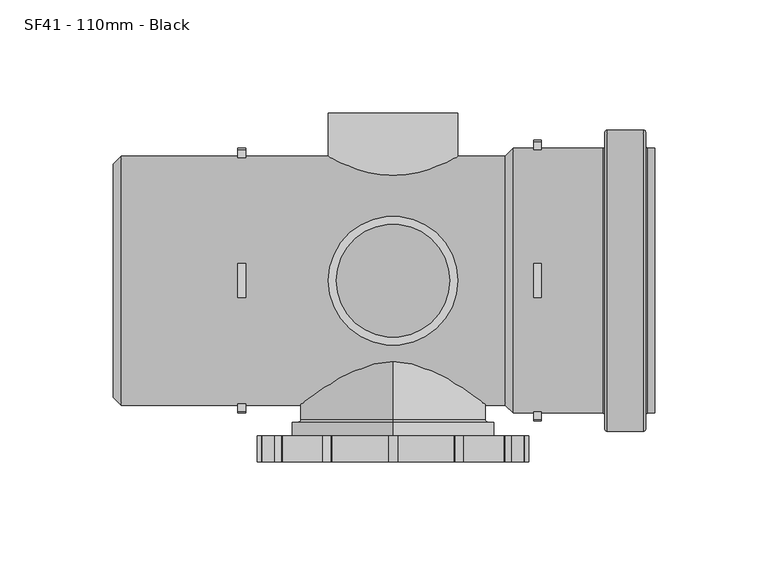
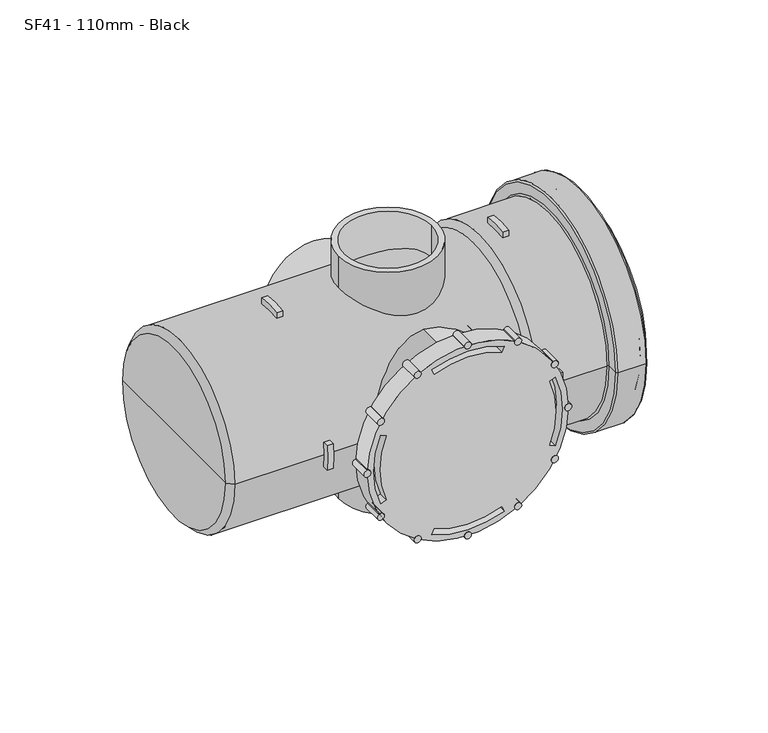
"""IFC4 building model written with IfcOpenShell, lengths in millimetres: pipe fitting geometry, MarleyPlumbingAndDrainage_PipeFitting_AccessPipe_SF41 : SF41 - 110mm - Black."""

from ifc_helpers import new_model, si_unit, point, frame, frame_2d, origin, origin_2d, place, context, project, spatial, polyline, circle_curve, ellipse_curve, trimmed, segment, composite_curve, outline, extrude, source, transform, mapped, element, save
from ifc_brep_helpers import plane_surface, cylinder_surface, revolved_surface, advanced_brep


def sf41_110mm_black_394e0064(model_context):
    return source(origin(), model_context, "Body", "SolidModel", [
        extrude(outline(composite_curve([segment(trimmed(circle_curve(frame_2d((29.0, -458.565843)), 2.0), [point((30.7320508, -459.565843))], [point((27.2679492, -457.565843))], False, "CARTESIAN"), True, "CONTINUOUS"), segment(trimmed(circle_curve(frame_2d((29.0, -458.565843)), 2.0), [point((27.2679492, -457.565843))], [point((30.7320508, -459.565843))], False, "CARTESIAN"), True, "CONTINUOUS")], self_intersect=False)), frame((0.0, -80.0, 0.0), z_axis=(0.0, 1.0, 0.0), x_axis=(0.0, 0.0, 1.0)), (0.0, 0.0, 1.0), 11.5),
        extrude(outline(composite_curve([segment(trimmed(circle_curve(frame_2d((0.0, -450.7953164)), 2.0), [point((2.0, -450.7953164))], [point((-2.0, -450.7953164))], False, "CARTESIAN"), True, "CONTINUOUS"), segment(trimmed(circle_curve(frame_2d((0.0, -450.7953164)), 2.0), [point((-2.0, -450.7953164))], [point((2.0, -450.7953164))], False, "CARTESIAN"), True, "CONTINUOUS")], self_intersect=False)), frame((0.0, -80.0, 0.0), z_axis=(0.0, 1.0, 0.0), x_axis=(0.0, 0.0, 1.0)), (0.0, 0.0, 1.0), 11.5),
        extrude(outline(composite_curve([segment(trimmed(circle_curve(frame_2d((-29.0, -458.565843)), 2.0), [point((-27.2679492, -457.565843))], [point((-30.7320508, -459.565843))], False, "CARTESIAN"), True, "CONTINUOUS"), segment(trimmed(circle_curve(frame_2d((-29.0, -458.565843)), 2.0), [point((-30.7320508, -459.565843))], [point((-27.2679492, -457.565843))], False, "CARTESIAN"), True, "CONTINUOUS")], self_intersect=False)), frame((0.0, -80.0, 0.0), z_axis=(0.0, 1.0, 0.0), x_axis=(0.0, 0.0, 1.0)), (0.0, 0.0, 1.0), 11.5),
        extrude(outline(composite_curve([segment(trimmed(circle_curve(frame_2d((-50.2294734, -479.7953164)), 2.0), [point((-49.2294734, -478.0632656))], [point((-51.2294734, -481.5273672))], False, "CARTESIAN"), True, "CONTINUOUS"), segment(trimmed(circle_curve(frame_2d((-50.2294734, -479.7953164)), 2.0), [point((-51.2294734, -481.5273672))], [point((-49.2294734, -478.0632656))], False, "CARTESIAN"), True, "CONTINUOUS")], self_intersect=False)), frame((0.0, -80.0, 0.0), z_axis=(0.0, 1.0, 0.0), x_axis=(0.0, 0.0, 1.0)), (0.0, 0.0, 1.0), 11.5),
        extrude(outline(composite_curve([segment(trimmed(circle_curve(frame_2d((-58.0, -508.7953164)), 2.0), [point((-58.0, -506.7953164))], [point((-58.0, -510.7953164))], False, "CARTESIAN"), True, "CONTINUOUS"), segment(trimmed(circle_curve(frame_2d((-58.0, -508.7953164)), 2.0), [point((-58.0, -510.7953164))], [point((-58.0, -506.7953164))], False, "CARTESIAN"), True, "CONTINUOUS")], self_intersect=False)), frame((0.0, -80.0, 0.0), z_axis=(0.0, 1.0, 0.0), x_axis=(0.0, 0.0, 1.0)), (0.0, 0.0, 1.0), 11.5),
        extrude(outline(composite_curve([segment(trimmed(circle_curve(frame_2d((-50.2294734, -537.7953164)), 2.0), [point((-51.2294734, -536.0632656))], [point((-49.2294734, -539.5273672))], False, "CARTESIAN"), True, "CONTINUOUS"), segment(trimmed(circle_curve(frame_2d((-50.2294734, -537.7953164)), 2.0), [point((-49.2294734, -539.5273672))], [point((-51.2294734, -536.0632656))], False, "CARTESIAN"), True, "CONTINUOUS")], self_intersect=False)), frame((0.0, -80.0, 0.0), z_axis=(0.0, 1.0, 0.0), x_axis=(0.0, 0.0, 1.0)), (0.0, 0.0, 1.0), 11.5),
        extrude(outline(composite_curve([segment(trimmed(circle_curve(frame_2d((-29.0, -559.0247898)), 2.0), [point((-30.7320508, -558.0247898))], [point((-27.2679492, -560.0247898))], False, "CARTESIAN"), True, "CONTINUOUS"), segment(trimmed(circle_curve(frame_2d((-29.0, -559.0247898)), 2.0), [point((-27.2679492, -560.0247898))], [point((-30.7320508, -558.0247898))], False, "CARTESIAN"), True, "CONTINUOUS")], self_intersect=False)), frame((0.0, -80.0, 0.0), z_axis=(0.0, 1.0, 0.0), x_axis=(0.0, 0.0, 1.0)), (0.0, 0.0, 1.0), 11.5),
        extrude(outline(composite_curve([segment(trimmed(circle_curve(frame_2d((0.0, -566.7953164)), 2.0), [point((-2.0, -566.7953164))], [point((2.0, -566.7953164))], False, "CARTESIAN"), True, "CONTINUOUS"), segment(trimmed(circle_curve(frame_2d((0.0, -566.7953164)), 2.0), [point((2.0, -566.7953164))], [point((-2.0, -566.7953164))], False, "CARTESIAN"), True, "CONTINUOUS")], self_intersect=False)), frame((0.0, -80.0, 0.0), z_axis=(0.0, 1.0, 0.0), x_axis=(0.0, 0.0, 1.0)), (0.0, 0.0, 1.0), 11.5),
        extrude(outline(composite_curve([segment(trimmed(circle_curve(frame_2d((29.0, -559.0247898)), 2.0), [point((27.2679492, -560.0247898))], [point((30.7320508, -558.0247898))], False, "CARTESIAN"), True, "CONTINUOUS"), segment(trimmed(circle_curve(frame_2d((29.0, -559.0247898)), 2.0), [point((30.7320508, -558.0247898))], [point((27.2679492, -560.0247898))], False, "CARTESIAN"), True, "CONTINUOUS")], self_intersect=False)), frame((0.0, -80.0, 0.0), z_axis=(0.0, 1.0, 0.0), x_axis=(0.0, 0.0, 1.0)), (0.0, 0.0, 1.0), 11.5),
        extrude(outline(composite_curve([segment(trimmed(circle_curve(frame_2d((50.2294734, -537.7953164)), 2.0), [point((49.2294734, -539.5273672))], [point((51.2294734, -536.0632656))], False, "CARTESIAN"), True, "CONTINUOUS"), segment(trimmed(circle_curve(frame_2d((50.2294734, -537.7953164)), 2.0), [point((51.2294734, -536.0632656))], [point((49.2294734, -539.5273672))], False, "CARTESIAN"), True, "CONTINUOUS")], self_intersect=False)), frame((0.0, -80.0, 0.0), z_axis=(0.0, 1.0, 0.0), x_axis=(0.0, 0.0, 1.0)), (0.0, 0.0, 1.0), 11.5),
        extrude(outline(composite_curve([segment(trimmed(circle_curve(frame_2d((50.2294734, -479.7953164)), 2.0), [point((51.2294734, -481.5273672))], [point((49.2294734, -478.0632656))], False, "CARTESIAN"), True, "CONTINUOUS"), segment(trimmed(circle_curve(frame_2d((50.2294734, -479.7953164)), 2.0), [point((49.2294734, -478.0632656))], [point((51.2294734, -481.5273672))], False, "CARTESIAN"), True, "CONTINUOUS")], self_intersect=False)), frame((0.0, -80.0, 0.0), z_axis=(0.0, 1.0, 0.0), x_axis=(0.0, 0.0, 1.0)), (0.0, 0.0, 1.0), 11.5),
        extrude(outline(composite_curve([segment(trimmed(circle_curve(frame_2d((58.0, -508.7953164)), 2.0), [point((58.0, -510.7953164))], [point((58.0, -506.7953164))], False, "CARTESIAN"), True, "CONTINUOUS"), segment(trimmed(circle_curve(frame_2d((58.0, -508.7953164)), 2.0), [point((58.0, -506.7953164))], [point((58.0, -510.7953164))], False, "CARTESIAN"), True, "CONTINUOUS")], self_intersect=False)), frame((0.0, -80.0, 0.0), z_axis=(0.0, 1.0, 0.0), x_axis=(0.0, 0.0, 1.0)), (0.0, 0.0, 1.0), 11.5),
        advanced_brep(
        [(-566.7953164, -80.0, 0.0), (-450.7953164, -80.0, 0.0), (-529.6515635, -80.0, -50.3514345), (-528.3121714, -80.0, -47.1178562), (-489.2784613, -80.0, -47.1178562), (-487.9390693, -80.0, -50.3514345), (-458.4438819, -80.0, -20.8562471), (-461.6774602, -80.0, -19.5168551), (-461.6774602, -80.0, 19.5168551), (-458.4438819, -80.0, 20.8562471), (-555.9131726, -80.0, 19.5168551), (-555.9131726, -80.0, -19.5168551), (-559.1467509, -80.0, -20.8562471), (-559.1467509, -80.0, 20.8562471), (-528.3121714, -80.0, 47.1178562), (-529.6515635, -80.0, 50.3514345), (-487.9390693, -80.0, 50.3514345), (-489.2784613, -80.0, 47.1178562), (-566.7953164, -68.5, 0.0), (-450.7953164, -68.5, 0.0), (-508.7953164, -68.5, -44.5), (-508.7953164, -68.5, 44.5), (-528.3121714, -74.0, -47.1178562), (-529.6515635, -74.0, -50.3514345), (-487.9390693, -74.0, -50.3514345), (-489.2784613, -74.0, -47.1178562), (-461.6774602, -74.0, -19.5168551), (-458.4438819, -74.0, -20.8562471), (-458.4438819, -74.0, 20.8562471), (-461.6774602, -74.0, 19.5168551), (-555.9131726, -74.0, -19.5168551), (-555.9131726, -74.0, 19.5168551), (-559.1467509, -74.0, 20.8562471), (-559.1467509, -74.0, -20.8562471), (-529.6515635, -74.0, 50.3514345), (-528.3121714, -74.0, 47.1178562), (-489.2784613, -74.0, 47.1178562), (-487.9390693, -74.0, 50.3514345), (-508.7953164, -62.5, -44.5), (-508.7953164, -62.5, 44.5), (-508.7953164, -62.5, -42.0), (-508.7953164, -62.5, 42.0), (-508.7953164, -61.5, -41.0), (-508.7953164, -61.5, 41.0), (-508.7953164, 0.0, -41.0), (-508.7953164, 0.0, 41.0), (-508.7953164, 0.0, 0.0)],
        [
            (0, 1, circle_curve(frame((-508.7953164, -80.0, 0.0), z_axis=(0.0, -1.0, 0.0), x_axis=(1.0000000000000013, 0.0, 0.0)), 58.0)),
            (1, 0, circle_curve(frame((-508.7953164, -80.0, 0.0), z_axis=(0.0, -1.0, 0.0), x_axis=(1.0000000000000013, 0.0, 0.0)), 58.0)),
            (2, 3),
            (3, 4, circle_curve(frame((-508.7953164, -80.0, 0.0), z_axis=(0.0, -1.0, 0.0), x_axis=(1.0000000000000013, 0.0, 0.0)), 51.0)),
            (4, 5),
            (5, 2, circle_curve(frame((-508.7953164, -80.0, 0.0), z_axis=(0.0, 1.0, 0.0), x_axis=(1.0000000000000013, 0.0, 0.0)), 54.5)),
            (6, 7),
            (7, 8, circle_curve(frame((-508.7953164, -80.0, 0.0), z_axis=(0.0, -1.0, 0.0), x_axis=(1.0000000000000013, 0.0, 0.0)), 51.0)),
            (8, 9),
            (9, 6, circle_curve(frame((-508.7953164, -80.0, 0.0), z_axis=(0.0, 1.0, 0.0), x_axis=(1.0000000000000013, 0.0, 0.0)), 54.5)),
            (10, 11, circle_curve(frame((-508.7953164, -80.0, 0.0), z_axis=(0.0, -1.0, 0.0), x_axis=(1.0000000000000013, 0.0, 0.0)), 51.0)),
            (11, 12),
            (12, 13, circle_curve(frame((-508.7953164, -80.0, 0.0), z_axis=(0.0, 1.0, 0.0), x_axis=(1.0000000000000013, 0.0, 0.0)), 54.5)),
            (13, 10),
            (14, 15),
            (15, 16, circle_curve(frame((-508.7953164, -80.0, 0.0), z_axis=(0.0, 1.0, 0.0), x_axis=(1.0000000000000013, 0.0, 0.0)), 54.5)),
            (16, 17),
            (17, 14, circle_curve(frame((-508.7953164, -80.0, 0.0), z_axis=(0.0, -1.0, 0.0), x_axis=(1.0000000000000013, 0.0, 0.0)), 51.0)),
            (18, 19, circle_curve(frame((-508.7953164, -68.5, 0.0), z_axis=(0.0, 1.0, 0.0), x_axis=(1.0000000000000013, 0.0, 0.0)), 58.0)),
            (19, 18, circle_curve(frame((-508.7953164, -68.5, 0.0), z_axis=(0.0, 1.0, 0.0), x_axis=(1.0000000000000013, 0.0, 0.0)), 58.0)),
            (20, 21, circle_curve(frame((-508.7953164, -68.5, 0.0), z_axis=(0.0, -1.0, 0.0), x_axis=(0.0, 0.0, 1.0000000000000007)), 44.5)),
            (21, 20, circle_curve(frame((-508.7953164, -68.5, 0.0), z_axis=(0.0, -1.0, 0.0), x_axis=(0.0, 0.0, 1.0000000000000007)), 44.5)),
            (0, 18),
            (19, 1),
            (22, 23),
            (23, 24, circle_curve(frame((-508.7953164, -74.0, 0.0), z_axis=(0.0, -1.0, 0.0), x_axis=(1.0000000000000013, 0.0, 0.0)), 54.5)),
            (24, 25),
            (25, 22, circle_curve(frame((-508.7953164, -74.0, 0.0), z_axis=(0.0, 1.0, 0.0), x_axis=(1.0000000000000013, 0.0, 0.0)), 51.0)),
            (26, 27),
            (27, 28, circle_curve(frame((-508.7953164, -74.0, 0.0), z_axis=(0.0, -1.0, 0.0), x_axis=(1.0000000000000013, 0.0, 0.0)), 54.5)),
            (28, 29),
            (29, 26, circle_curve(frame((-508.7953164, -74.0, 0.0), z_axis=(0.0, 1.0, 0.0), x_axis=(1.0000000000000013, 0.0, 0.0)), 51.0)),
            (30, 31, circle_curve(frame((-508.7953164, -74.0, 0.0), z_axis=(0.0, 1.0, 0.0), x_axis=(1.0000000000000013, 0.0, 0.0)), 51.0)),
            (31, 32),
            (32, 33, circle_curve(frame((-508.7953164, -74.0, 0.0), z_axis=(0.0, -1.0, 0.0), x_axis=(1.0000000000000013, 0.0, 0.0)), 54.5)),
            (33, 30),
            (34, 35),
            (35, 36, circle_curve(frame((-508.7953164, -74.0, 0.0), z_axis=(0.0, 1.0, 0.0), x_axis=(1.0000000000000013, 0.0, 0.0)), 51.0)),
            (36, 37),
            (37, 34, circle_curve(frame((-508.7953164, -74.0, 0.0), z_axis=(0.0, -1.0, 0.0), x_axis=(1.0000000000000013, 0.0, 0.0)), 54.5)),
            (22, 3),
            (2, 23),
            (5, 24),
            (4, 25),
            (26, 7),
            (6, 27),
            (9, 28),
            (8, 29),
            (30, 11),
            (10, 31),
            (13, 32),
            (12, 33),
            (34, 15),
            (14, 35),
            (17, 36),
            (16, 37),
            (38, 39, circle_curve(frame((-508.7953164, -62.5, 0.0), z_axis=(0.0, -1.0, 0.0), x_axis=(0.0, 0.0, 1.0000000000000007)), 44.5)),
            (39, 21),
            (20, 38),
            (39, 38, circle_curve(frame((-508.7953164, -62.5, 0.0), z_axis=(0.0, -1.0, 0.0), x_axis=(0.0, 0.0, 1.0000000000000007)), 44.5)),
            (38, 40),
            (40, 41, circle_curve(frame((-508.7953164, -62.5, 0.0), z_axis=(0.0, -1.0, 0.0), x_axis=(0.0, 0.0, 1.0000000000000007)), 42.0)),
            (41, 39),
            (41, 40, circle_curve(frame((-508.7953164, -62.5, 0.0), z_axis=(0.0, -1.0, 0.0), x_axis=(0.0, 0.0, 1.0000000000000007)), 42.0)),
            (40, 42, circle_curve(frame((-508.7953164, -61.5, -42.0), z_axis=(-1.0000000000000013, 0.0, 0.0), x_axis=(0.0, -1.0000000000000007, 0.0)), 1.0)),
            (42, 43, circle_curve(frame((-508.7953164, -61.5, 0.0), z_axis=(0.0, -1.0, 0.0), x_axis=(0.0, 0.0, 1.0000000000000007)), 41.0)),
            (43, 41, circle_curve(frame((-508.7953164, -61.5, 42.0), z_axis=(-1.0000000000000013, 0.0, 0.0), x_axis=(0.0, -1.0000000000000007, 0.0)), 1.0)),
            (43, 42, circle_curve(frame((-508.7953164, -61.5, 0.0), z_axis=(0.0, -1.0, 0.0), x_axis=(0.0, 0.0, 1.0000000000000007)), 41.0)),
            (42, 44),
            (44, 45, circle_curve(frame((-508.7953164, 0.0, 0.0), z_axis=(0.0, -1.0, 0.0), x_axis=(0.0, 0.0, 1.0000000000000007)), 41.0)),
            (45, 43),
            (45, 44, circle_curve(frame((-508.7953164, 0.0, 0.0), z_axis=(0.0, -1.0, 0.0), x_axis=(0.0, 0.0, 1.0000000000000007)), 41.0)),
            (44, 46),
            (46, 45),
        ],
        [
            plane_surface(frame((-450.7953164, -80.0, 0.0), z_axis=(0.0, -1.0, 0.0), x_axis=(0.0, 0.0, 1.0))),
            plane_surface(frame((-450.7953164, -68.5, 0.0), z_axis=(0.0, 1.0, 0.0), x_axis=(0.0, 0.0, -1.0))),
            cylinder_surface(frame((-508.7953164, -68.5, 0.0), z_axis=(0.0, -1.0000000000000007, 0.0), x_axis=(1.0000000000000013, 0.0, 0.0)), 58.0),
            plane_surface(frame((-529.6515635, -74.0, -50.3514345), z_axis=(0.0, -1.0, 0.0), x_axis=(0.38268343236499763, 0.0, 0.9238795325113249))),
            plane_surface(frame((-528.3121714, -80.0, -47.1178562), z_axis=(0.9238795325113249, 0.0, -0.38268343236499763), x_axis=(0.0, 1.0, 0.0))),
            revolved_surface(polyline([(-454.29531639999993, -80.00000000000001, 0.0), (-454.29531639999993, -74.0, 0.0)]), (-508.7953164, -74.0, 0.0), (0.0, -1.0000000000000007, 0.0)),
            plane_surface(frame((-487.9390693, -80.0, -50.3514345), z_axis=(-0.9238795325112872, 0.0, -0.38268343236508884), x_axis=(0.0, 1.0, 0.0))),
            cylinder_surface(frame((-508.7953164, -74.0, 0.0), z_axis=(0.0, 1.0000000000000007, 0.0), x_axis=(1.0000000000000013, 0.0, 0.0)), 51.0),
            plane_surface(frame((-461.6774602, -80.0, -19.5168551), z_axis=(0.3826834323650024, 0.0, 0.9238795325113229), x_axis=(0.0, 1.0, 0.0))),
            revolved_surface(polyline([(-454.29531639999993, -80.00000000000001, 0.0), (-454.29531639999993, -74.0, 0.0)]), (-508.7953164, -68.5, 0.0), (0.0, -1.0000000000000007, 0.0)),
            plane_surface(frame((-458.4438819, -80.0, 20.8562471), z_axis=(0.38268343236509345, 0.0, -0.9238795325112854), x_axis=(0.0, 1.0, 0.0))),
            cylinder_surface(frame((-508.7953164, -68.5, 0.0), z_axis=(0.0, 1.0000000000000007, 0.0), x_axis=(1.0000000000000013, 0.0, 0.0)), 51.0),
            plane_surface(frame((-555.9131726, -80.0, 19.5168551), z_axis=(-0.38268343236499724, 0.0, -0.923879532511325), x_axis=(0.0, 1.0, 0.0))),
            plane_surface(frame((-559.1467509, -80.0, -20.8562471), z_axis=(-0.3826834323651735, 0.0, 0.9238795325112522), x_axis=(0.0, 1.0, 0.0))),
            plane_surface(frame((-529.6515635, -80.0, 50.3514345), z_axis=(0.923879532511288, 0.0, 0.38268343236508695), x_axis=(0.0, 1.0, 0.0))),
            plane_surface(frame((-489.2784613, -80.0, 47.1178562), z_axis=(-0.9238795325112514, 0.0, 0.3826834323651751), x_axis=(0.0, 1.0, 0.0))),
            cylinder_surface(frame((-508.7953164, 1158.344146, 0.0), z_axis=(0.0, 1.0000000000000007, 0.0), x_axis=(0.0, 0.0, 1.0000000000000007)), 44.5),
            plane_surface(frame((-508.7953164, -62.5, 0.0), z_axis=(0.0, 1.0, 0.0), x_axis=(0.0, 0.0, 1.0))),
            revolved_surface(trimmed(ellipse_curve(frame((-508.7953164, -61.5, 42.0), z_axis=(1.0000000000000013, 0.0, 0.0), x_axis=(0.0, -1.0000000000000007, 0.0)), 1.0, 1.0), [point((-508.7953164, -62.5, 42.0))], [point((-508.7953164, -61.5, 41.0))], True, "CARTESIAN"), (-508.7953164, 1158.344146, 0.0), (0.0, 1.0000000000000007, 0.0)),
            cylinder_surface(frame((-508.7953164, 1158.344146, 0.0), z_axis=(0.0, 1.0000000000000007, 0.0), x_axis=(0.0, 0.0, 1.0000000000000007)), 41.0),
            plane_surface(frame((-508.7953164, 0.0, 0.0), z_axis=(0.0, 1.0, 0.0), x_axis=(0.0, 0.0, 1.0))),
        ],
        [
            (0, [[1, 2], [3, 4, 5, 6], [7, 8, 9, 10], [11, 12, 13, 14], [15, 16, 17, 18]]),
            (1, [[19, 20], [21, 22]]),
            (2, [[-1, 23, -20, 24]]),
            (2, [[-2, -24, -19, -23]]),
            (3, [[25, 26, 27, 28]]),
            (3, [[29, 30, 31, 32]]),
            (3, [[33, 34, 35, 36]]),
            (3, [[37, 38, 39, 40]]),
            (4, [[-25, 41, -3, 42]]),
            (5, [[-26, -42, -6, 43]]),
            (6, [[-27, -43, -5, 44]]),
            (7, [[-28, -44, -4, -41]]),
            (8, [[-29, 45, -7, 46]]),
            (9, [[-30, -46, -10, 47]]),
            (10, [[-31, -47, -9, 48]]),
            (11, [[-32, -48, -8, -45]]),
            (11, [[-33, 49, -11, 50]]),
            (12, [[-34, -50, -14, 51]]),
            (9, [[-35, -51, -13, 52]]),
            (13, [[-36, -52, -12, -49]]),
            (14, [[-37, 53, -15, 54]]),
            (11, [[-38, -54, -18, 55]]),
            (15, [[-39, -55, -17, 56]]),
            (9, [[-40, -56, -16, -53]]),
            (16, [[57, 58, -21, 59]]),
            (16, [[-58, 60, -59, -22]]),
            (17, [[-57, 61, 62, 63]]),
            (17, [[-60, -63, 64, -61]]),
            (18, [[-62, 65, 66, 67]]),
            (18, [[-64, -67, 68, -65]]),
            (19, [[-66, 69, 70, 71]]),
            (19, [[-68, -71, 72, -69]]),
            (20, [[-70, 73, 74]]),
            (20, [[-72, -74, -73]]),
        ],
    ),
        extrude(outline(composite_curve([segment(trimmed(circle_curve(frame_2d((0.0, -508.7953164)), 28.5), [point((0.0, -537.2953164))], [point((0.0, -480.2953164))], False, "CARTESIAN"), True, "CONTINUOUS"), segment(trimmed(circle_curve(frame_2d((0.0, -508.7953164)), 28.5), [point((0.0, -480.2953164))], [point((0.0, -537.2953164))], False, "CARTESIAN"), True, "CONTINUOUS")], self_intersect=False), holes=[composite_curve([segment(trimmed(circle_curve(frame_2d((0.0, -508.7953164)), 25.0), [point((0.0, -533.7953164))], [point((0.0, -483.7953164))], True, "CARTESIAN"), True, "CONTINUOUS"), segment(trimmed(circle_curve(frame_2d((0.0, -508.7953164)), 25.0), [point((0.0, -483.7953164))], [point((0.0, -533.7953164))], True, "CARTESIAN"), True, "CONTINUOUS")], self_intersect=False)]), frame((0.0, 0.0, 0.0), z_axis=(0.0, 1.0, 0.0), x_axis=(0.0, 0.0, 1.0)), (0.0, 0.0, 1.0), 74.0),
        extrude(outline(composite_curve([segment(trimmed(circle_curve(frame_2d((-508.7953164, 0.0)), 28.5), [point((-537.2953164, 0.0))], [point((-480.2953164, 0.0))], False, "CARTESIAN"), True, "CONTINUOUS"), segment(trimmed(circle_curve(frame_2d((-508.7953164, 0.0)), 28.5), [point((-480.2953164, 0.0))], [point((-537.2953164, 0.0))], False, "CARTESIAN"), True, "CONTINUOUS")], self_intersect=False), holes=[composite_curve([segment(trimmed(circle_curve(frame_2d((-508.7953164, 0.0)), 25.0), [point((-533.7953164, 0.0))], [point((-483.7953164, 0.0))], True, "CARTESIAN"), True, "CONTINUOUS"), segment(trimmed(circle_curve(frame_2d((-508.7953164, 0.0)), 25.0), [point((-483.7953164, 0.0))], [point((-533.7953164, 0.0))], True, "CARTESIAN"), True, "CONTINUOUS")], self_intersect=False)]), frame((0.0, 0.0, -74.0), z_axis=(0.0, 0.0, 1.0), x_axis=(1.0, 0.0, 0.0)), (0.0, 0.0, 1.0), 148.0),
        extrude(outline(composite_curve([segment(trimmed(circle_curve(origin_2d(), 55.0), [point((-7.5, -54.4862368))], [point((7.5, -54.4862368))], True, "CARTESIAN"), True, "CONTINUOUS"), segment(polyline([(7.5, -54.4862368), (7.5, -58.0172388)]), True, "CONTINUOUS"), segment(trimmed(circle_curve(origin_2d(), 58.5), [point((7.5, -58.0172388))], [point((-7.5, -58.0172388))], False, "CARTESIAN"), True, "CONTINUOUS"), segment(polyline([(-7.5, -58.0172388), (-7.5, -54.4862368)]), True, "CONTINUOUS")], self_intersect=False)), frame((-577.2953164, 0.0, 0.0), z_axis=(1.0, 0.0, 0.0), x_axis=(0.0, 1.0, 0.0)), (0.0, 0.0, 1.0), 3.5),
        extrude(outline(composite_curve([segment(polyline([(54.4862368, 7.5), (58.0172388, 7.5)]), True, "CONTINUOUS"), segment(trimmed(circle_curve(origin_2d(), 58.5), [point((58.0172388, 7.5))], [point((58.0172388, -7.5))], False, "CARTESIAN"), True, "CONTINUOUS"), segment(polyline([(58.0172388, -7.5), (54.4862368, -7.5)]), True, "CONTINUOUS"), segment(trimmed(circle_curve(origin_2d(), 55.0), [point((54.4862368, -7.5))], [point((54.4862368, 7.5))], True, "CARTESIAN"), True, "CONTINUOUS")], self_intersect=False)), frame((-577.2953164, 0.0, 0.0), z_axis=(1.0, 0.0, 0.0), x_axis=(0.0, 1.0, 0.0)), (0.0, 0.0, 1.0), 3.5),
        extrude(outline(composite_curve([segment(polyline([(-58.0172388, 7.5), (-54.4862368, 7.5)]), True, "CONTINUOUS"), segment(trimmed(circle_curve(origin_2d(), 55.0), [point((-54.4862368, 7.5))], [point((-54.4862368, -7.5))], True, "CARTESIAN"), True, "CONTINUOUS"), segment(polyline([(-54.4862368, -7.5), (-58.0172388, -7.5)]), True, "CONTINUOUS"), segment(trimmed(circle_curve(origin_2d(), 58.5), [point((-58.0172388, -7.5))], [point((-58.0172388, 7.5))], False, "CARTESIAN"), True, "CONTINUOUS")], self_intersect=False)), frame((-577.2953164, 0.0, 0.0), z_axis=(1.0, 0.0, 0.0), x_axis=(0.0, 1.0, 0.0)), (0.0, 0.0, 1.0), 3.5),
        extrude(outline(composite_curve([segment(polyline([(-7.5, 54.4862368), (-7.5, 58.0172388)]), True, "CONTINUOUS"), segment(trimmed(circle_curve(origin_2d(), 58.5), [point((-7.5, 58.0172388))], [point((7.5, 58.0172388))], False, "CARTESIAN"), True, "CONTINUOUS"), segment(polyline([(7.5, 58.0172388), (7.5, 54.4862368)]), True, "CONTINUOUS"), segment(trimmed(circle_curve(origin_2d(), 55.0), [point((7.5, 54.4862368))], [point((-7.5, 54.4862368))], True, "CARTESIAN"), True, "CONTINUOUS")], self_intersect=False)), frame((-577.2953164, 0.0, 0.0), z_axis=(1.0, 0.0, 0.0), x_axis=(0.0, 1.0, 0.0)), (0.0, 0.0, 1.0), 3.5),
        extrude(outline(composite_curve([segment(trimmed(circle_curve(origin_2d(), 62.0), [point((-7.5, 61.5446992))], [point((7.5, 61.5446992))], False, "CARTESIAN"), True, "CONTINUOUS"), segment(polyline([(7.5, 61.5446992), (7.5, 58.0172388)]), True, "CONTINUOUS"), segment(trimmed(circle_curve(origin_2d(), 58.5), [point((7.5, 58.0172388))], [point((-7.5, 58.0172388))], True, "CARTESIAN"), True, "CONTINUOUS"), segment(polyline([(-7.5, 58.0172388), (-7.5, 61.5446992)]), True, "CONTINUOUS")], self_intersect=False)), frame((-446.7953164, 0.0, 0.0), z_axis=(1.0, 0.0, 0.0), x_axis=(0.0, 1.0, 0.0)), (0.0, 0.0, 1.0), 3.5),
        extrude(outline(composite_curve([segment(polyline([(58.0172388, 7.5), (61.5446992, 7.5)]), True, "CONTINUOUS"), segment(trimmed(circle_curve(origin_2d(), 62.0), [point((61.5446992, 7.5))], [point((61.5446992, -7.5))], False, "CARTESIAN"), True, "CONTINUOUS"), segment(polyline([(61.5446992, -7.5), (58.0172388, -7.5)]), True, "CONTINUOUS"), segment(trimmed(circle_curve(origin_2d(), 58.5), [point((58.0172388, -7.5))], [point((58.0172388, 7.5))], True, "CARTESIAN"), True, "CONTINUOUS")], self_intersect=False)), frame((-446.7953164, 0.0, 0.0), z_axis=(1.0, 0.0, 0.0), x_axis=(0.0, 1.0, 0.0)), (0.0, 0.0, 1.0), 3.5),
        extrude(outline(composite_curve([segment(trimmed(circle_curve(origin_2d(), 62.0), [point((-61.5446992, -7.5))], [point((-61.5446992, 7.5))], False, "CARTESIAN"), True, "CONTINUOUS"), segment(polyline([(-61.5446992, 7.5), (-58.0172388, 7.5)]), True, "CONTINUOUS"), segment(trimmed(circle_curve(origin_2d(), 58.5), [point((-58.0172388, 7.5))], [point((-58.0172388, -7.5))], True, "CARTESIAN"), True, "CONTINUOUS"), segment(polyline([(-58.0172388, -7.5), (-61.5446992, -7.5)]), True, "CONTINUOUS")], self_intersect=False)), frame((-446.7953164, 0.0, 0.0), z_axis=(1.0, 0.0, 0.0), x_axis=(0.0, 1.0, 0.0)), (0.0, 0.0, 1.0), 3.5),
        extrude(outline(composite_curve([segment(polyline([(-7.5, -61.5446992), (-7.5, -58.0172388)]), True, "CONTINUOUS"), segment(trimmed(circle_curve(origin_2d(), 58.5), [point((-7.5, -58.0172388))], [point((7.5, -58.0172388))], True, "CARTESIAN"), True, "CONTINUOUS"), segment(polyline([(7.5, -58.0172388), (7.5, -61.5446992)]), True, "CONTINUOUS"), segment(trimmed(circle_curve(origin_2d(), 62.0), [point((7.5, -61.5446992))], [point((-7.5, -61.5446992))], False, "CARTESIAN"), True, "CONTINUOUS")], self_intersect=False)), frame((-446.7953164, 0.0, 0.0), z_axis=(1.0, 0.0, 0.0), x_axis=(0.0, 1.0, 0.0)), (0.0, 0.0, 1.0), 3.5),
        advanced_brep(
        [(-396.2953164, -58.5, 0.0), (-396.2953164, 58.5, 0.0), (-393.2953164, 58.5, 0.0), (-393.2953164, -58.5, 0.0), (-397.2953164, -65.5, 0.0), (-397.2953164, 65.5, 0.0), (-397.2953164, 59.5, 0.0), (-397.2953164, -59.5, 0.0), (-414.2953164, -66.5, 0.0), (-414.2953164, 66.5, 0.0), (-398.2953164, 66.5, 0.0), (-398.2953164, -66.5, 0.0), (-415.2953164, -59.5, 0.0), (-415.2953164, 59.5, 0.0), (-415.2953164, 65.5, 0.0), (-415.2953164, -65.5, 0.0), (-455.7953164, -58.5, 0.0), (-455.7953164, 58.5, 0.0), (-416.2953164, 58.5, 0.0), (-416.2953164, -58.5, 0.0), (-459.2953164, -55.0, 0.0), (-459.2953164, 55.0, 0.0), (-628.7953164, -55.0, 0.0), (-628.7953164, 55.0, 0.0), (-632.2953164, -51.5, 0.0), (-632.2953164, 51.5, 0.0), (-455.7953164, -55.0, 0.0), (-455.7953164, 55.0, 0.0), (-455.7953164, 0.0, 0.0), (-393.2953164, -55.0, 0.0), (-393.2953164, 55.0, 0.0), (-632.2953164, 0.0, 0.0)],
        [
            (0, 1, circle_curve(frame((-396.2953164, 0.0, 0.0), z_axis=(1.0, 0.0, 0.0), x_axis=(0.0, 1.0, 0.0)), 58.5)),
            (1, 2),
            (2, 3, circle_curve(frame((-393.2953164, 0.0, 0.0), z_axis=(-1.0, 0.0, 0.0), x_axis=(0.0, 1.0, 0.0)), 58.5)),
            (3, 0),
            (1, 0, circle_curve(frame((-396.2953164, 0.0, 0.0), z_axis=(1.0, 0.0, 0.0), x_axis=(0.0, 1.0, 0.0)), 58.5)),
            (3, 2, circle_curve(frame((-393.2953164, 0.0, 0.0), z_axis=(-1.0, 0.0, 0.0), x_axis=(0.0, 1.0, 0.0)), 58.5)),
            (4, 5, circle_curve(frame((-397.2953164, 0.0, 0.0), z_axis=(1.0, 0.0, 0.0), x_axis=(0.0, 1.0, 0.0)), 65.5)),
            (5, 6),
            (6, 7, circle_curve(frame((-397.2953164, 0.0, 0.0), z_axis=(-1.0, 0.0, 0.0), x_axis=(0.0, 1.0, 0.0)), 59.5)),
            (7, 4),
            (5, 4, circle_curve(frame((-397.2953164, 0.0, 0.0), z_axis=(1.0, 0.0, 0.0), x_axis=(0.0, 1.0, 0.0)), 65.5)),
            (7, 6, circle_curve(frame((-397.2953164, 0.0, 0.0), z_axis=(-1.0, 0.0, 0.0), x_axis=(0.0, 1.0, 0.0)), 59.5)),
            (8, 9, circle_curve(frame((-414.2953164, 0.0, 0.0), z_axis=(1.0, 0.0, 0.0), x_axis=(0.0, 1.0, 0.0)), 66.5)),
            (9, 10),
            (10, 11, circle_curve(frame((-398.2953164, 0.0, 0.0), z_axis=(-1.0, 0.0, 0.0), x_axis=(0.0, 1.0, 0.0)), 66.5)),
            (11, 8),
            (9, 8, circle_curve(frame((-414.2953164, 0.0, 0.0), z_axis=(1.0, 0.0, 0.0), x_axis=(0.0, 1.0, 0.0)), 66.5)),
            (11, 10, circle_curve(frame((-398.2953164, 0.0, 0.0), z_axis=(-1.0, 0.0, 0.0), x_axis=(0.0, 1.0, 0.0)), 66.5)),
            (12, 13, circle_curve(frame((-415.2953164, 0.0, 0.0), z_axis=(1.0, 0.0, 0.0), x_axis=(0.0, 1.0, 0.0)), 59.5)),
            (13, 14),
            (14, 15, circle_curve(frame((-415.2953164, 0.0, 0.0), z_axis=(-1.0, 0.0, 0.0), x_axis=(0.0, 1.0, 0.0)), 65.5)),
            (15, 12),
            (13, 12, circle_curve(frame((-415.2953164, 0.0, 0.0), z_axis=(1.0, 0.0, 0.0), x_axis=(0.0, 1.0, 0.0)), 59.5)),
            (15, 14, circle_curve(frame((-415.2953164, 0.0, 0.0), z_axis=(-1.0, 0.0, 0.0), x_axis=(0.0, 1.0, 0.0)), 65.5)),
            (16, 17, circle_curve(frame((-455.7953164, 0.0, 0.0), z_axis=(1.0, 0.0, 0.0), x_axis=(0.0, 1.0, 0.0)), 58.5)),
            (17, 18),
            (18, 19, circle_curve(frame((-416.2953164, 0.0, 0.0), z_axis=(-1.0, 0.0, 0.0), x_axis=(0.0, 1.0, 0.0)), 58.5)),
            (19, 16),
            (17, 16, circle_curve(frame((-455.7953164, 0.0, 0.0), z_axis=(1.0, 0.0, 0.0), x_axis=(0.0, 1.0, 0.0)), 58.5)),
            (19, 18, circle_curve(frame((-416.2953164, 0.0, 0.0), z_axis=(-1.0, 0.0, 0.0), x_axis=(0.0, 1.0, 0.0)), 58.5)),
            (20, 21, circle_curve(frame((-459.2953164, 0.0, 0.0), z_axis=(1.0, 0.0, 0.0), x_axis=(0.0, 1.0, 0.0)), 55.0)),
            (21, 17),
            (16, 20),
            (21, 20, circle_curve(frame((-459.2953164, 0.0, 0.0), z_axis=(1.0, 0.0, 0.0), x_axis=(0.0, 1.0, 0.0)), 55.0)),
            (22, 23, circle_curve(frame((-628.7953164, 0.0, 0.0), z_axis=(1.0, 0.0, 0.0), x_axis=(0.0, 1.0, 0.0)), 55.0)),
            (23, 21),
            (20, 22),
            (23, 22, circle_curve(frame((-628.7953164, 0.0, 0.0), z_axis=(1.0, 0.0, 0.0), x_axis=(0.0, 1.0, 0.0)), 55.0)),
            (24, 25, circle_curve(frame((-632.2953164, 0.0, 0.0), z_axis=(1.0, 0.0, 0.0), x_axis=(0.0, 1.0, 0.0)), 51.5)),
            (25, 23),
            (22, 24),
            (25, 24, circle_curve(frame((-632.2953164, 0.0, 0.0), z_axis=(1.0, 0.0, 0.0), x_axis=(0.0, 1.0, 0.0)), 51.5)),
            (26, 27, circle_curve(frame((-455.7953164, 0.0, 0.0), z_axis=(1.0, 0.0, 0.0), x_axis=(0.0, 1.0, 0.0)), 55.0)),
            (27, 28),
            (28, 26),
            (27, 26, circle_curve(frame((-455.7953164, 0.0, 0.0), z_axis=(1.0, 0.0, 0.0), x_axis=(0.0, 1.0, 0.0)), 55.0)),
            (29, 30, circle_curve(frame((-393.2953164, 0.0, 0.0), z_axis=(1.0, 0.0, 0.0), x_axis=(0.0, 1.0, 0.0)), 55.0)),
            (30, 27),
            (26, 29),
            (30, 29, circle_curve(frame((-393.2953164, 0.0, 0.0), z_axis=(1.0, 0.0, 0.0), x_axis=(0.0, 1.0, 0.0)), 55.0)),
            (2, 30),
            (29, 3),
            (6, 1, circle_curve(frame((-396.2953164, 59.5, 0.0), z_axis=(0.0, 0.0, 1.0), x_axis=(1.0, 0.0, 0.0)), 1.0)),
            (0, 7, circle_curve(frame((-396.2953164, -59.5, 0.0), z_axis=(0.0, 0.0, 1.0), x_axis=(1.0, 0.0, 0.0)), 1.0)),
            (10, 5, circle_curve(frame((-398.2953164, 65.5, 0.0), z_axis=(0.0, 0.0, -1.0), x_axis=(1.0, 0.0, 0.0)), 1.0)),
            (4, 11, circle_curve(frame((-398.2953164, -65.5, 0.0), z_axis=(0.0, 0.0, -1.0), x_axis=(1.0, 0.0, 0.0)), 1.0)),
            (14, 9, circle_curve(frame((-414.2953164, 65.5, 0.0), z_axis=(0.0, 0.0, -1.0), x_axis=(1.0, 0.0, 0.0)), 1.0)),
            (8, 15, circle_curve(frame((-414.2953164, -65.5, 0.0), z_axis=(0.0, 0.0, -1.0), x_axis=(1.0, 0.0, 0.0)), 1.0)),
            (18, 13, circle_curve(frame((-416.2953164, 59.5, 0.0), z_axis=(0.0, 0.0, 1.0), x_axis=(1.0, 0.0, 0.0)), 1.0)),
            (12, 19, circle_curve(frame((-416.2953164, -59.5, 0.0), z_axis=(0.0, 0.0, 1.0), x_axis=(1.0, 0.0, 0.0)), 1.0)),
            (31, 25),
            (24, 31),
        ],
        [
            cylinder_surface(frame((2018.5, 0.0, 0.0), z_axis=(-1.0, 0.0, 0.0), x_axis=(0.0, 1.0, 0.0)), 58.5),
            plane_surface(frame((-397.2953164, 0.0, 0.0), z_axis=(1.0, 0.0, 0.0), x_axis=(0.0, 1.0, 0.0))),
            cylinder_surface(frame((2018.5, 0.0, 0.0), z_axis=(-1.0, 0.0, 0.0), x_axis=(0.0, 1.0, 0.0)), 66.5),
            plane_surface(frame((-415.2953164, 0.0, 0.0), z_axis=(-1.0, 0.0, 0.0), x_axis=(0.0, 1.0, 0.0))),
            revolved_surface(polyline([(-455.7953164, 58.5, 0.0), (-459.2953164, 55.0, 0.0)]), (2018.5, 0.0, 0.0), (-1.0, 0.0, 0.0)),
            cylinder_surface(frame((2018.5, 0.0, 0.0), z_axis=(-1.0, 0.0, 0.0), x_axis=(0.0, 1.0, 0.0)), 55.0),
            revolved_surface(polyline([(-628.7953164, 55.0, 0.0), (-632.2953164, 51.5, 0.0)]), (2018.5, 0.0, 0.0), (-1.0, 0.0, 0.0)),
            plane_surface(frame((-455.7953164, 0.0, 0.0), z_axis=(1.0, 0.0, 0.0), x_axis=(0.0, 1.0, 0.0))),
            revolved_surface(polyline([(-455.79531640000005, 55.0, 0.0), (-393.29531640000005, 55.0, 0.0)]), (2018.5, 0.0, 0.0), (-1.0, 0.0, 0.0)),
            plane_surface(frame((-393.2953164, 0.0, 0.0), z_axis=(1.0, 0.0, 0.0), x_axis=(0.0, 1.0, 0.0))),
            revolved_surface(trimmed(ellipse_curve(frame((-396.2953164, 59.5, 0.0), z_axis=(0.0, 0.0, -1.0), x_axis=(1.0, 0.0, 0.0)), 1.0, 1.0), [point((-396.2953164, 58.5, 0.0))], [point((-397.2953164, 59.5, 0.0))], True, "CARTESIAN"), (2018.5, 0.0, 0.0), (-1.0, 0.0, 0.0)),
            revolved_surface(trimmed(ellipse_curve(frame((-398.2953164, 65.5, 0.0), z_axis=(0.0, 0.0, 1.0), x_axis=(1.0, 0.0, 0.0)), 1.0, 1.0), [point((-397.2953164, 65.5, 0.0))], [point((-398.2953164, 66.5, 0.0))], True, "CARTESIAN"), (2018.5, 0.0, 0.0), (-1.0, 0.0, 0.0)),
            revolved_surface(trimmed(ellipse_curve(frame((-414.2953164, 65.5, 0.0), z_axis=(0.0, 0.0, 1.0), x_axis=(1.0, 0.0, 0.0)), 1.0, 1.0), [point((-414.2953164, 66.5, 0.0))], [point((-415.2953164, 65.5, 0.0))], True, "CARTESIAN"), (2018.5, 0.0, 0.0), (-1.0, 0.0, 0.0)),
            revolved_surface(trimmed(ellipse_curve(frame((-416.2953164, 59.5, 0.0), z_axis=(0.0, 0.0, -1.0), x_axis=(1.0, 0.0, 0.0)), 1.0, 1.0), [point((-415.2953164, 59.5, 0.0))], [point((-416.2953164, 58.5, 0.0))], True, "CARTESIAN"), (2018.5, 0.0, 0.0), (-1.0, 0.0, 0.0)),
            plane_surface(frame((-632.2953164, 0.0, 0.0), z_axis=(-1.0, 0.0, 0.0), x_axis=(0.0, 1.0, 0.0))),
        ],
        [
            (0, [[1, 2, 3, 4]]),
            (0, [[5, -4, 6, -2]]),
            (1, [[7, 8, 9, 10]]),
            (1, [[11, -10, 12, -8]]),
            (2, [[13, 14, 15, 16]]),
            (2, [[17, -16, 18, -14]]),
            (3, [[19, 20, 21, 22]]),
            (3, [[23, -22, 24, -20]]),
            (0, [[25, 26, 27, 28]]),
            (0, [[29, -28, 30, -26]]),
            (4, [[31, 32, -25, 33]]),
            (4, [[34, -33, -29, -32]]),
            (5, [[35, 36, -31, 37]]),
            (5, [[38, -37, -34, -36]]),
            (6, [[39, 40, -35, 41]]),
            (6, [[42, -41, -38, -40]]),
            (7, [[43, 44, 45]]),
            (7, [[46, -45, -44]]),
            (8, [[47, 48, -43, 49]]),
            (8, [[50, -49, -46, -48]]),
            (9, [[-3, 51, -47, 52]]),
            (9, [[-6, -52, -50, -51]]),
            (10, [[-9, 53, -1, 54]]),
            (10, [[-12, -54, -5, -53]]),
            (11, [[-15, 55, -7, 56]]),
            (11, [[-18, -56, -11, -55]]),
            (12, [[-21, 57, -13, 58]]),
            (12, [[-24, -58, -17, -57]]),
            (13, [[-27, 59, -19, 60]]),
            (13, [[-30, -60, -23, -59]]),
            (14, [[61, -39, 62]]),
            (14, [[-62, -42, -61]]),
        ],
    ),
    ])


if __name__ == "__main__":
    model = new_model("IFC4")
    model_context = context("Model", 3, world=origin())
    ifc_project = project(units=[si_unit("LENGTHUNIT", "METRE", prefix="MILLI")], contexts=[model_context])
    site = spatial("IfcSite", under=ifc_project)
    building = spatial("IfcBuilding", under=site)
    placement = place(None, origin())
    sf41_110mm_black_shape = sf41_110mm_black_394e0064(model_context)
    element("IfcPipeFitting", 1, ObjectType="MarleyPlumbingAndDrainage_PipeFitting_AccessPipe_SF41 : SF41 - 110mm - Black", at=placement, inside=building, context=model_context, shape_type="MappedRepresentation", body=[
        mapped(sf41_110mm_black_shape, transform((0.0, 0.0, 0.0), x_axis=(1.0, 0.0, 0.0), y_axis=(0.0, 1.0, 0.0), z_axis=(0.0, 0.0, 1.0))),
    ])
    save(model, "model.ifc")
